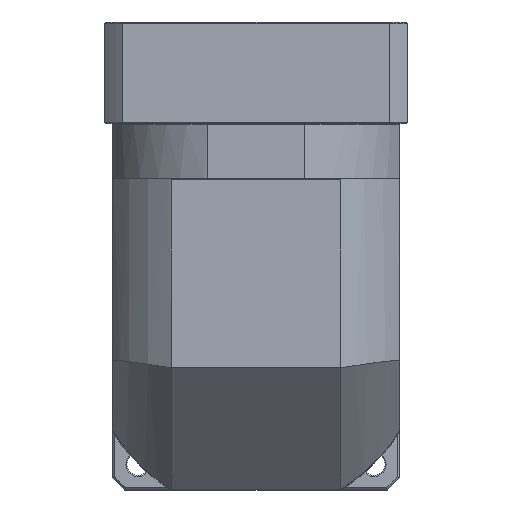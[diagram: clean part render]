
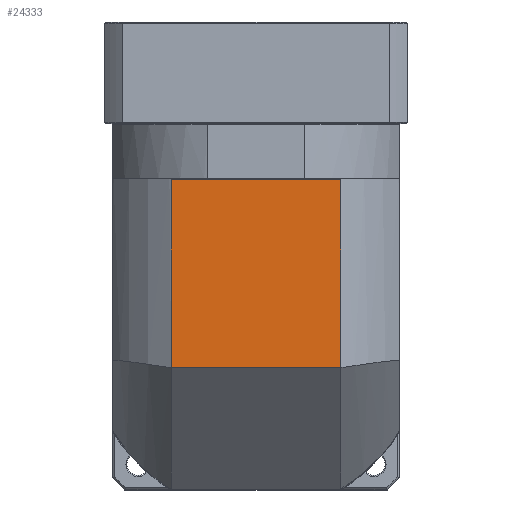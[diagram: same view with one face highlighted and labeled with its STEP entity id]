
A CAD part, top view. The second image highlights one B-rep face of the part: STEP entity #24333.
In plain terms, the highlighted planar face has unit normal (0, 0, 1).
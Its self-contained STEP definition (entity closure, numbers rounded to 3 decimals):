
#1199 = EDGE_LOOP ( 'NONE', ( #12466, #47893, #136835, #31737 ) ) ;
#3103 = VERTEX_POINT ( 'NONE', #77158 ) ;
#5916 = VERTEX_POINT ( 'NONE', #75368 ) ;
#12466 = ORIENTED_EDGE ( 'NONE', *, *, #14319, .T. ) ;
#12520 = LINE ( 'NONE', #68347, #97449 ) ;
#14319 = EDGE_CURVE ( 'NONE', #3103, #5916, #90243, .T. ) ;
#14321 = VECTOR ( 'NONE', #120567, 1000. ) ;
#24333 = ADVANCED_FACE ( 'NONE', ( #40362 ), #29184, .F. ) ;
#28262 = DIRECTION ( 'NONE',  ( 1., 0., 0. ) ) ;
#29184 = PLANE ( 'NONE',  #97249 ) ;
#30084 = DIRECTION ( 'NONE',  ( 1., 0., 0. ) ) ;
#31737 = ORIENTED_EDGE ( 'NONE', *, *, #59462, .F. ) ;
#31815 = VECTOR ( 'NONE', #30084, 1000. ) ;
#40362 = FACE_OUTER_BOUND ( 'NONE', #1199, .T. ) ;
#47893 = ORIENTED_EDGE ( 'NONE', *, *, #111935, .F. ) ;
#54446 = CARTESIAN_POINT ( 'NONE',  ( -154.571, 50.104, 57.839 ) ) ;
#56958 = CARTESIAN_POINT ( 'NONE',  ( -41.557, 143.104, 57.839 ) ) ;
#59462 = EDGE_CURVE ( 'NONE', #3103, #119600, #97596, .T. ) ;
#68347 = CARTESIAN_POINT ( 'NONE',  ( -41.557, -203.647, 57.839 ) ) ;
#75368 = CARTESIAN_POINT ( 'NONE',  ( -41.557, 50.104, 57.839 ) ) ;
#77158 = CARTESIAN_POINT ( 'NONE',  ( -125.586, 50.104, 57.839 ) ) ;
#90243 = LINE ( 'NONE', #54446, #98715 ) ;
#95125 = EDGE_CURVE ( 'NONE', #119600, #119674, #105032, .T. ) ;
#97249 = AXIS2_PLACEMENT_3D ( 'NONE', #116267, #136294, #28262 ) ;
#97449 = VECTOR ( 'NONE', #132251, 1000. ) ;
#97596 = LINE ( 'NONE', #116394, #14321 ) ;
#98715 = VECTOR ( 'NONE', #121120, 1000. ) ;
#105032 = LINE ( 'NONE', #138549, #31815 ) ;
#111935 = EDGE_CURVE ( 'NONE', #119674, #5916, #12520, .T. ) ;
#116267 = CARTESIAN_POINT ( 'NONE',  ( -154.571, 143.604, 57.839 ) ) ;
#116394 = CARTESIAN_POINT ( 'NONE',  ( -125.586, -203.647, 57.839 ) ) ;
#119600 = VERTEX_POINT ( 'NONE', #130389 ) ;
#119674 = VERTEX_POINT ( 'NONE', #56958 ) ;
#120567 = DIRECTION ( 'NONE',  ( 0., 1., 0. ) ) ;
#121120 = DIRECTION ( 'NONE',  ( 1., 0., 0. ) ) ;
#130389 = CARTESIAN_POINT ( 'NONE',  ( -125.586, 143.104, 57.839 ) ) ;
#132251 = DIRECTION ( 'NONE',  ( 0., -1., 0. ) ) ;
#136294 = DIRECTION ( 'NONE',  ( 0., 0., -1. ) ) ;
#136835 = ORIENTED_EDGE ( 'NONE', *, *, #95125, .F. ) ;
#138549 = CARTESIAN_POINT ( 'NONE',  ( -154.571, 143.104, 57.839 ) ) ;
